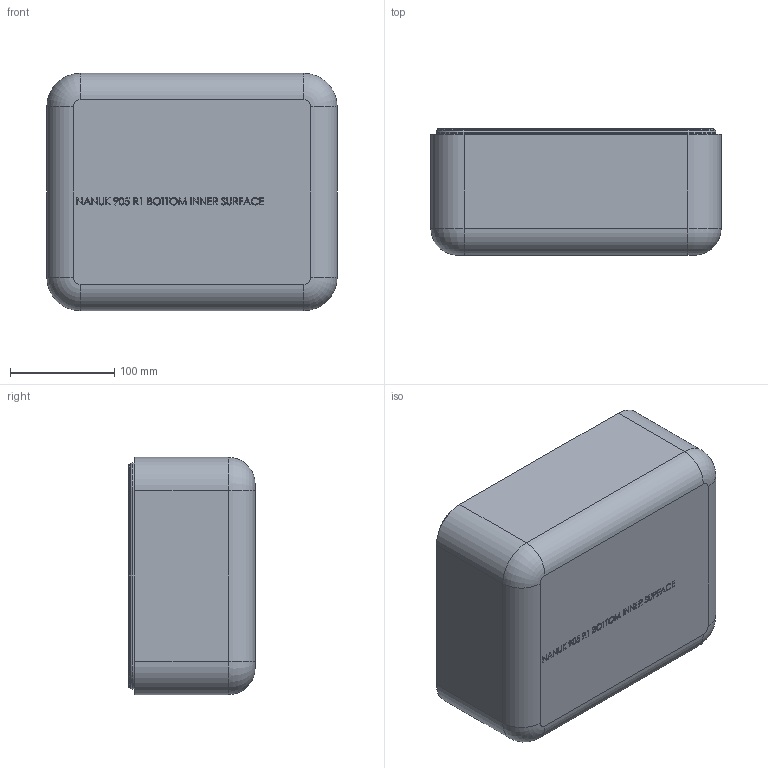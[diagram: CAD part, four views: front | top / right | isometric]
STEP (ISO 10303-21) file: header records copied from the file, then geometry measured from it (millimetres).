
FILE_DESCRIPTION (( 'STEP AP203' ), '1' );
FILE_NAME ('905_R1_Btm_INNER_SURFACE_STEP.STEP', '2026-02-11T14:41:14', ( '' ), ( '' ), 'SwSTEP 2.0', 'SolidWorks 2022', '' );
FILE_SCHEMA (( 'CONFIG_CONTROL_DESIGN' ));
Products named in the file (1): 905_R1_Btm_INNER_SURFACE_STEP
Bounding box: 278.14 x 120.9 x 227.34 mm (x, y, z)
Volume: 2444515.3 mm3; surface area: 314002.5 mm2
Topology: 1 solids, 1 shells, 1022 faces, 2504 edges, 1558 vertices
Faces by surface type: plane 382, bspline 380, cylinder 128, torus 76, cone 48, sphere 8
Entity records: 58655 total; most frequent: CARTESIAN_POINT 37244, ORIENTED_EDGE 4992, DIRECTION 3571, EDGE_CURVE 2496, VERTEX_POINT 1558, AXIS2_PLACEMENT_3D 1243, EDGE_LOOP 1104, LINE 1085
